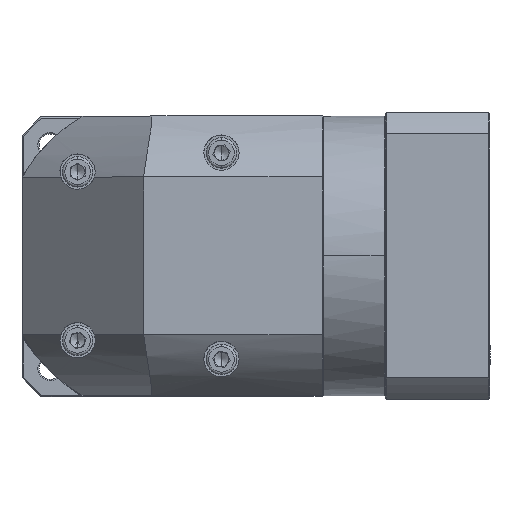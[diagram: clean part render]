
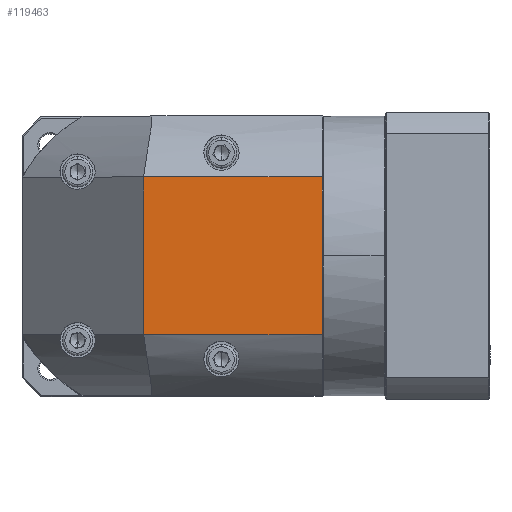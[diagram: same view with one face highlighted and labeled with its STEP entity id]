
A CAD part, top view. The second image highlights one B-rep face of the part: STEP entity #119463.
In plain terms, the highlighted planar face has unit normal (0, 0, 1).
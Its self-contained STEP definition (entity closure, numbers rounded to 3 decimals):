
#1880 = EDGE_CURVE ( 'NONE', #131883, #133404, #19787, .T. ) ;
#7439 = CARTESIAN_POINT ( 'NONE',  ( 109.405, 25.712, 64.308 ) ) ;
#13957 = FACE_OUTER_BOUND ( 'NONE', #60091, .T. ) ;
#19787 = LINE ( 'NONE', #25130, #61394 ) ;
#20206 = ORIENTED_EDGE ( 'NONE', *, *, #85674, .F. ) ;
#25130 = CARTESIAN_POINT ( 'NONE',  ( -13.995, 25.712, 64.308 ) ) ;
#26683 = CARTESIAN_POINT ( 'NONE',  ( 36.005, 115.612, 64.308 ) ) ;
#37184 = DIRECTION ( 'NONE',  ( 0., 0., -1. ) ) ;
#42682 = CARTESIAN_POINT ( 'NONE',  ( -13.995, 90.512, 64.308 ) ) ;
#46985 = VERTEX_POINT ( 'NONE', #127639 ) ;
#52516 = AXIS2_PLACEMENT_3D ( 'NONE', #100948, #37184, #111622 ) ;
#60091 = EDGE_LOOP ( 'NONE', ( #20206, #116808, #76164, #94945 ) ) ;
#61394 = VECTOR ( 'NONE', #121860, 1000. ) ;
#62971 = LINE ( 'NONE', #114988, #117998 ) ;
#70106 = LINE ( 'NONE', #26683, #113162 ) ;
#70974 = VERTEX_POINT ( 'NONE', #80348 ) ;
#76164 = ORIENTED_EDGE ( 'NONE', *, *, #1880, .F. ) ;
#80348 = CARTESIAN_POINT ( 'NONE',  ( 109.405, 90.512, 64.308 ) ) ;
#82440 = CARTESIAN_POINT ( 'NONE',  ( 36.005, 25.712, 64.308 ) ) ;
#85674 = EDGE_CURVE ( 'NONE', #46985, #70974, #90743, .T. ) ;
#86959 = EDGE_CURVE ( 'NONE', #133404, #46985, #70106, .T. ) ;
#87261 = EDGE_CURVE ( 'NONE', #70974, #131883, #62971, .T. ) ;
#90743 = LINE ( 'NONE', #42682, #112378 ) ;
#94945 = ORIENTED_EDGE ( 'NONE', *, *, #87261, .F. ) ;
#100948 = CARTESIAN_POINT ( 'NONE',  ( 43.505, 58.112, 64.308 ) ) ;
#101127 = DIRECTION ( 'NONE',  ( 0., 1., 0. ) ) ;
#102771 = PLANE ( 'NONE',  #52516 ) ;
#111622 = DIRECTION ( 'NONE',  ( 0., -1., 0. ) ) ;
#112378 = VECTOR ( 'NONE', #128757, 1000. ) ;
#113162 = VECTOR ( 'NONE', #101127, 1000. ) ;
#114988 = CARTESIAN_POINT ( 'NONE',  ( 109.405, 115.612, 64.308 ) ) ;
#116808 = ORIENTED_EDGE ( 'NONE', *, *, #86959, .F. ) ;
#117998 = VECTOR ( 'NONE', #125733, 1000. ) ;
#119463 = ADVANCED_FACE ( 'NONE', ( #13957 ), #102771, .F. ) ;
#121860 = DIRECTION ( 'NONE',  ( -1., 0., 0. ) ) ;
#125733 = DIRECTION ( 'NONE',  ( 0., -1., 0. ) ) ;
#127639 = CARTESIAN_POINT ( 'NONE',  ( 36.005, 90.512, 64.308 ) ) ;
#128757 = DIRECTION ( 'NONE',  ( 1., 0., 0. ) ) ;
#131883 = VERTEX_POINT ( 'NONE', #7439 ) ;
#133404 = VERTEX_POINT ( 'NONE', #82440 ) ;
